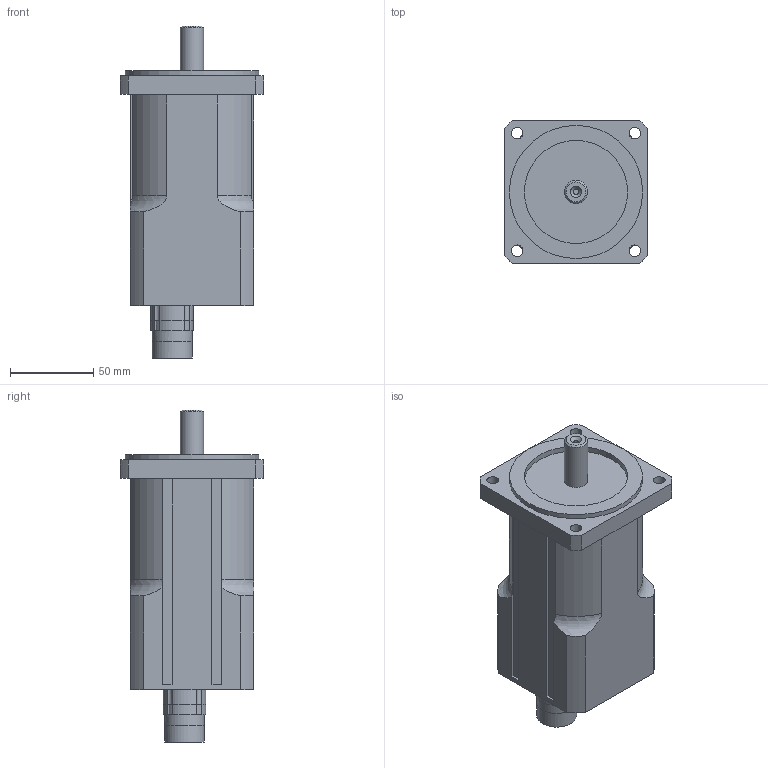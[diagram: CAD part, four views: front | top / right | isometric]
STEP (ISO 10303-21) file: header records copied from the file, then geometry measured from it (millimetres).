
FILE_DESCRIPTION(/* description */ ('Alibre Inc.'),/* implementation_level */ '2;1');
FILE_NAME(/* name */ 'export0',/* time_stamp */ '2011-02-18T13:49:47+01:00',/* author */ (''),/* organization */ (''),/* preprocessor_version */ 'ST-DEVELOPER v12',/* originating_system */ 'Alibre',/* authorisation */ '');
FILE_SCHEMA (('ALIBRE_SCHEMA','CONFIG_CONTROL_DESIGN'));
Length unit declared in the file: millimetre
Products named in the file (5): ID_1
Bounding box: 86 x 86 x 199.5 mm (x, y, z)
Volume: 742136.9 mm3; surface area: 77550.7 mm2
Topology: 4 solids, 4 shells, 140 faces, 354 edges, 228 vertices
Faces by surface type: plane 65, cylinder 51, bspline 19, torus 4, cone 1
Full cylindrical faces by diameter (mm): 2.7 x8, 14 x1, 20 x2, 24 x2, 62 x1, 80 x1
Entity records: 13647 total; most frequent: CARTESIAN_POINT 3251, DIRECTION 1622, ORIENTED_EDGE 1544, EDGE_CURVE 772, AXIS2_PLACEMENT_3D 650, VERTEX_POINT 534, EDGE_LOOP 478, FACE_BOUND 478
